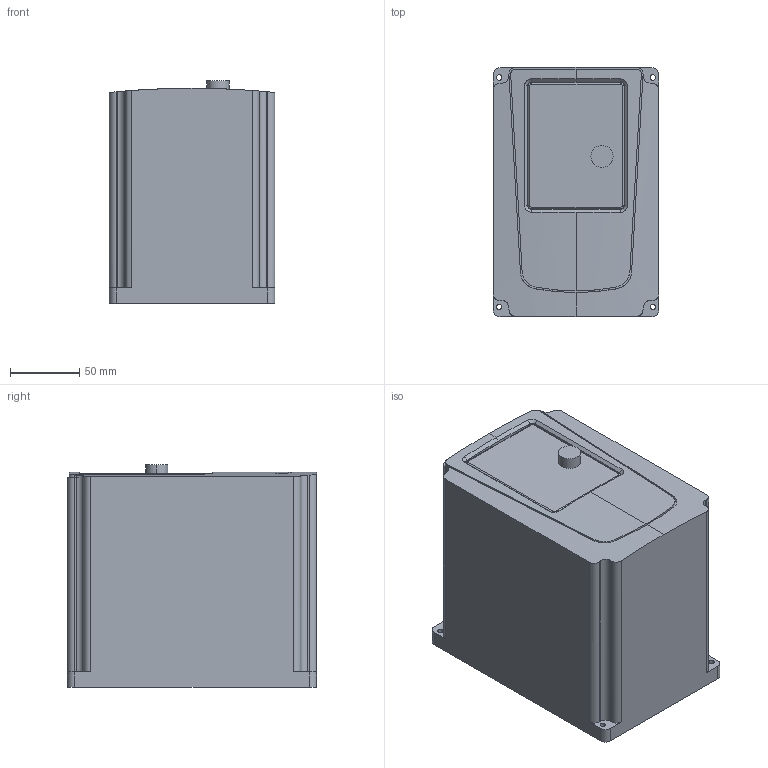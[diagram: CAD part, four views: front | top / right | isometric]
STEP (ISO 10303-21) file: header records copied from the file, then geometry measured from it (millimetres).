
FILE_DESCRIPTION (( 'STEP AP203' ), '1' );
FILE_NAME ('EXP-VFD-1P-220.240-0.5HP-3A-DCM.STEP', '2026-07-06T20:17:50', ( '' ), ( '' ), 'SwSTEP 2.0', 'SolidWorks 2020', '' );
FILE_SCHEMA (( 'CONFIG_CONTROL_DESIGN' ));
Length unit declared in the file: inch
Products named in the file (1): EXP-VFD-1P-220.240-0.5HP-3A-DCM
Bounding box: 119.89 x 180.09 x 160.86 mm (x, y, z)
Volume: 3225149.3 mm3; surface area: 151585.7 mm2
Topology: 1 solids, 1 shells, 222 faces, 559 edges, 365 vertices
Faces by surface type: plane 105, cylinder 94, bspline 16, torus 4, cone 3
Entity records: 8257 total; most frequent: CARTESIAN_POINT 2849, ORIENTED_EDGE 1118, DIRECTION 1078, EDGE_CURVE 559, AXIS2_PLACEMENT_3D 380, VERTEX_POINT 365, VECTOR 318, LINE 318
